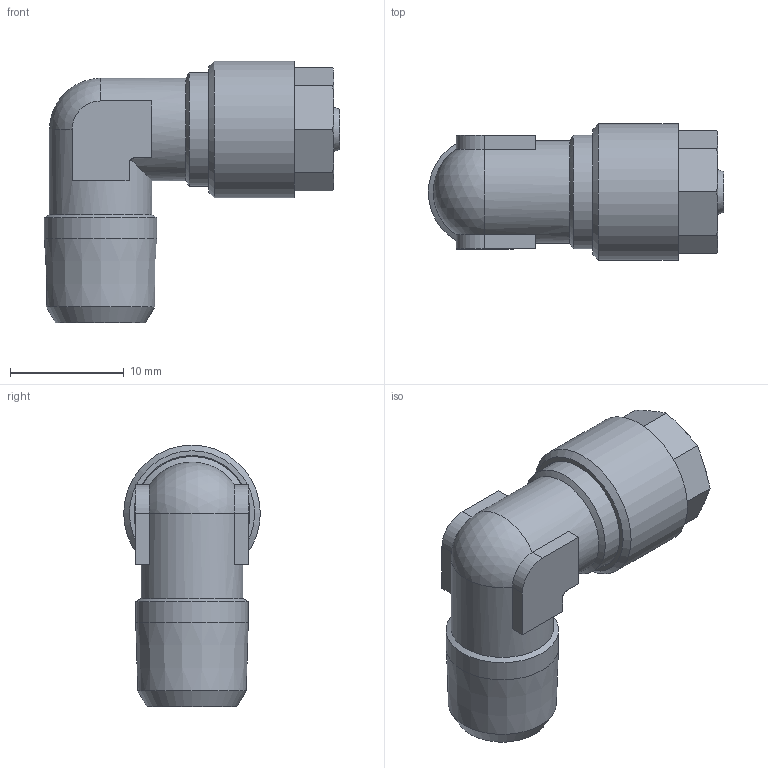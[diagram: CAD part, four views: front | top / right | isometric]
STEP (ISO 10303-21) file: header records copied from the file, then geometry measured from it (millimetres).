
FILE_DESCRIPTION(/* description */ (''),/* implementation_level */ '2;1');
FILE_NAME(/* name */ '11003_305_64_R18_17.07.17',/* time_stamp */ '2017-07-17T16:00:50+02:00',/* author */ (''),/* organization */ (''),/* preprocessor_version */ 'ST-DEVELOPER v16.5',/* originating_system */ 'HiCAD 2016 2102.2 Build 618',/* authorisation */ '');
FILE_SCHEMA (('AUTOMOTIVE_DESIGN { 1 0 10303 214 1 1 1 1 }'));
Length unit declared in the file: millimetre
Products named in the file (3): Root; 17005; R11003
Assembly tree (2 placements, depth 2):
  Root
    17005
    R11003
Bounding box: 25.94 x 12 x 23 mm (x, y, z)
Volume: 2408.9 mm3; surface area: 2479 mm2
Topology: 2 solids, 2 shells, 65 faces, 159 edges, 100 vertices
Faces by surface type: plane 29, cone 20, cylinder 14, torus 1, sphere 1
Full cylindrical faces by diameter (mm): 3 x1, 4.5 x1, 5.5 x1, 6 x1, 8.773 x1, 9 x2, 9.884 x1, 10 x1, 12 x1
Entity records: 3866 total; most frequent: CARTESIAN_POINT 1185, DIRECTION 318, PRESENTATION_STYLE_ASSIGNMENT 248, COLOUR_RGB 247, DRAUGHTING_PRE_DEFINED_CURVE_FONT 246, CURVE_STYLE 246, OVER_RIDING_STYLED_ITEM 246, ORIENTED_EDGE 246
